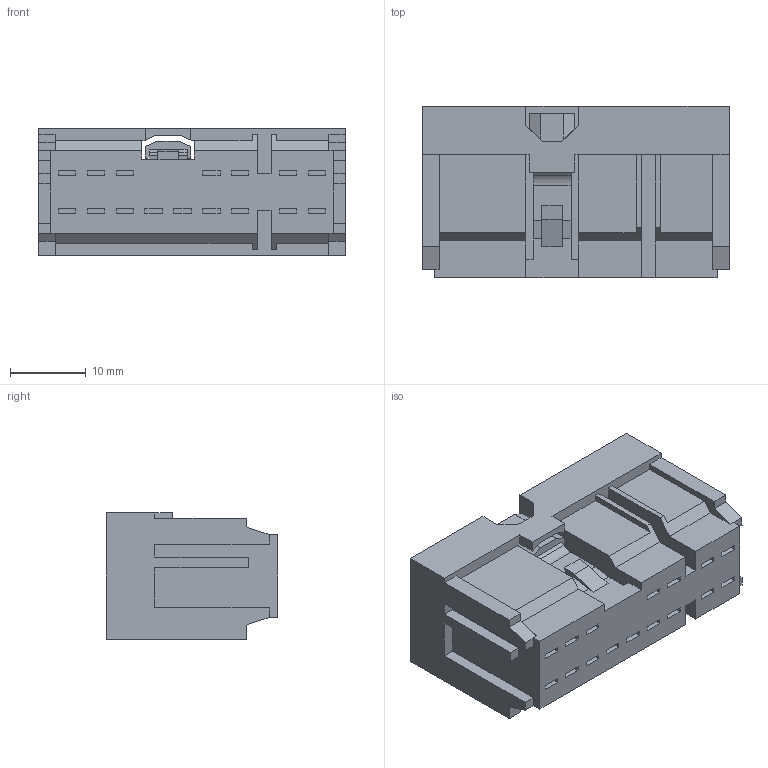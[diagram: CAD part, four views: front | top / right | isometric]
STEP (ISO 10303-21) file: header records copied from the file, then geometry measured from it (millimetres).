
FILE_DESCRIPTION(('CATIA V5 STEP','CAx-IF Rec.Pracs.--- Model Styling and Organization---1.4--- 2014-01-23'),'2;1');
FILE_NAME('\\fss02.ad.sws.co.jp\fs100016\第3設計部\共有\コネクタ第1Gr\【91】一時保管\★カタログ用参考資料\簡易３D\stp_送付用\6098-6958.stp','2024-10-07T01:23:56+00:00',('none'),('none'),'CATIA Version 5-6 Release 2018 SP4 HF21','CATIA V5 STEP AP214','none');
FILE_SCHEMA(('AUTOMOTIVE_DESIGN { 1 0 10303 214 1 1 1 1 }'));
Length unit declared in the file: millimetre
Products named in the file (1): 6098-6958
Bounding box: 40.35 x 22.6 x 16.6 mm (x, y, z)
Volume: 11106.2 mm3; surface area: 5303.3 mm2
Topology: 1 solids, 1 shells, 273 faces, 751 edges, 510 vertices
Faces by surface type: plane 272, revolution 1
Entity records: 7761 total; most frequent: ORIENTED_EDGE 1502, CARTESIAN_POINT 1379, DIRECTION 977, EDGE_CURVE 751, VECTOR 748, LINE 748, VERTEX_POINT 510, EDGE_LOOP 305
